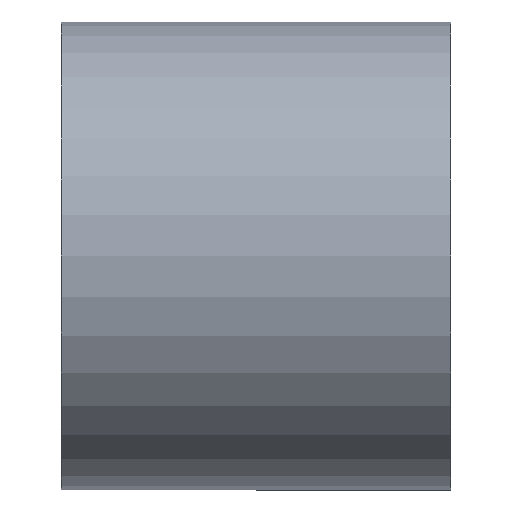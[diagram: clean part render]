
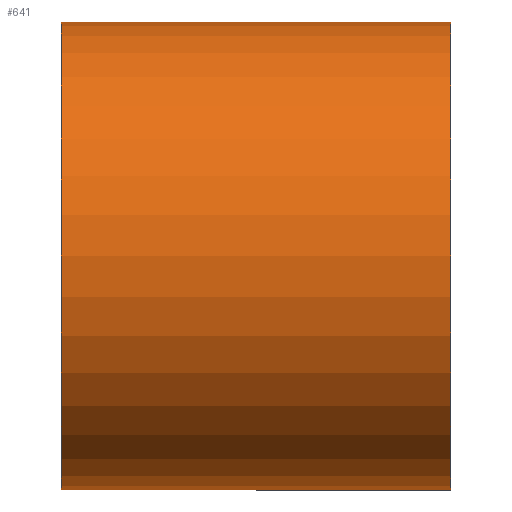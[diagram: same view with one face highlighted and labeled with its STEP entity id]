
A CAD part, front view. The second image highlights one B-rep face of the part: STEP entity #641.
In plain terms, the highlighted cylindrical face has radius 30 mm (diameter 60 mm), a partial arc.
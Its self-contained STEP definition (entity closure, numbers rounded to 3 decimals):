
#2 = EDGE_CURVE ( 'NONE', #267, #259, #366, .T. ) ;
#96 = DIRECTION ( 'NONE',  ( 0., 0., 1. ) ) ;
#117 = AXIS2_PLACEMENT_3D ( 'NONE', #825, #626, #337 ) ;
#126 = CARTESIAN_POINT ( 'NONE',  ( 0., 0., -30. ) ) ;
#259 = VERTEX_POINT ( 'NONE', #385 ) ;
#267 = VERTEX_POINT ( 'NONE', #811 ) ;
#268 = LINE ( 'NONE', #126, #297 ) ;
#297 = VECTOR ( 'NONE', #613, 1000. ) ;
#314 = CARTESIAN_POINT ( 'NONE',  ( 25., 0., -30. ) ) ;
#321 = DIRECTION ( 'NONE',  ( 0., 0., 1. ) ) ;
#333 = EDGE_CURVE ( 'NONE', #593, #259, #454, .T. ) ;
#337 = DIRECTION ( 'NONE',  ( 0., 0., 1. ) ) ;
#344 = CIRCLE ( 'NONE', #370, 30. ) ;
#366 = CIRCLE ( 'NONE', #117, 30. ) ;
#370 = AXIS2_PLACEMENT_3D ( 'NONE', #566, #631, #96 ) ;
#385 = CARTESIAN_POINT ( 'NONE',  ( -25., 0., 30. ) ) ;
#441 = VECTOR ( 'NONE', #597, 1000. ) ;
#450 = CARTESIAN_POINT ( 'NONE',  ( 0., 0., 0. ) ) ;
#454 = LINE ( 'NONE', #737, #441 ) ;
#458 = CYLINDRICAL_SURFACE ( 'NONE', #668, 30. ) ;
#464 = EDGE_LOOP ( 'NONE', ( #578, #480, #775, #714 ) ) ;
#480 = ORIENTED_EDGE ( 'NONE', *, *, #816, .T. ) ;
#504 = CARTESIAN_POINT ( 'NONE',  ( 25., 0., 30. ) ) ;
#566 = CARTESIAN_POINT ( 'NONE',  ( 25., 0., 0. ) ) ;
#578 = ORIENTED_EDGE ( 'NONE', *, *, #705, .F. ) ;
#593 = VERTEX_POINT ( 'NONE', #504 ) ;
#597 = DIRECTION ( 'NONE',  ( -1., 0., 0. ) ) ;
#613 = DIRECTION ( 'NONE',  ( -1., 0., 0. ) ) ;
#622 = VERTEX_POINT ( 'NONE', #314 ) ;
#626 = DIRECTION ( 'NONE',  ( -1., 0., 0. ) ) ;
#631 = DIRECTION ( 'NONE',  ( -1., 0., 0. ) ) ;
#641 = ADVANCED_FACE ( 'NONE', ( #806 ), #458, .T. ) ;
#668 = AXIS2_PLACEMENT_3D ( 'NONE', #450, #742, #321 ) ;
#705 = EDGE_CURVE ( 'NONE', #622, #267, #268, .T. ) ;
#714 = ORIENTED_EDGE ( 'NONE', *, *, #2, .F. ) ;
#737 = CARTESIAN_POINT ( 'NONE',  ( 0., 0., 30. ) ) ;
#742 = DIRECTION ( 'NONE',  ( -1., 0., 0. ) ) ;
#775 = ORIENTED_EDGE ( 'NONE', *, *, #333, .T. ) ;
#806 = FACE_OUTER_BOUND ( 'NONE', #464, .T. ) ;
#811 = CARTESIAN_POINT ( 'NONE',  ( -25., 0., -30. ) ) ;
#816 = EDGE_CURVE ( 'NONE', #622, #593, #344, .T. ) ;
#825 = CARTESIAN_POINT ( 'NONE',  ( -25., 0., 0. ) ) ;
